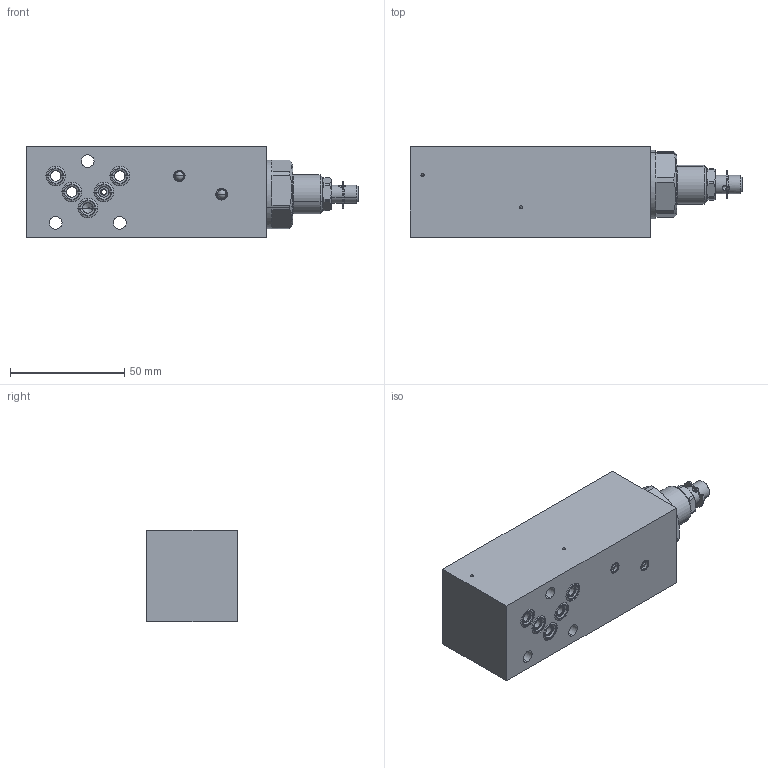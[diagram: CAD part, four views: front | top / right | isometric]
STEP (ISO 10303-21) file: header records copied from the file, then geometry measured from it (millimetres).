
FILE_DESCRIPTION (( 'STEP AP214' ), '1' );
FILE_NAME ('FVSSA04-B.STEP', '2017-03-23T07:19:06', ( '' ), ( '' ), 'SwSTEP 2.0', 'SolidWorks 2016', '' );
FILE_SCHEMA (( 'AUTOMOTIVE_DESIGN' ));
Length unit declared in the file: millimetre
Products named in the file (1): FVSSA04-B
Bounding box: 145.1 x 39.5 x 40 mm (x, y, z)
Volume: 170538.6 mm3; surface area: 29451.9 mm2
Topology: 12 solids, 16 shells, 372 faces, 868 edges, 521 vertices
Faces by surface type: cylinder 143, plane 86, cone 83, bspline 40, sphere 16, torus 4
Entity records: 15475 total; most frequent: CARTESIAN_POINT 2872, DIRECTION 1857, ORIENTED_EDGE 1684, EDGE_CURVE 842, AXIS2_PLACEMENT_3D 776, VERTEX_POINT 521, CIRCLE 443, EDGE_LOOP 421
